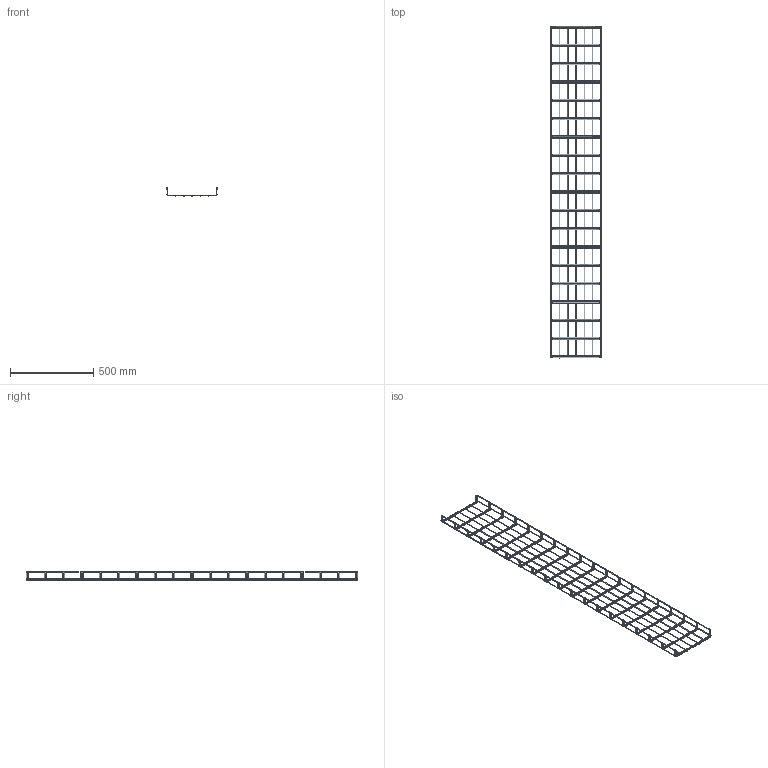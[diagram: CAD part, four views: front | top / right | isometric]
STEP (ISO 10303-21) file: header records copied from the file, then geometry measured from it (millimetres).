
FILE_DESCRIPTION(/* description */ (''),/* implementation_level */ '2;1');
FILE_NAME(/* name */ 'M2_300×050',/* time_stamp */ '2012-11-29T22:11:15+01:00',/* author */ (''),/* organization */ (''),/* preprocessor_version */ 'ST-DEVELOPER v10',/* originating_system */ '',/* authorisation */ '');
FILE_SCHEMA (('AUTOMOTIVE_DESIGN_CC2'));
Length unit declared in the file: millimetre
Products named in the file (1): 1
Bounding box: 304.19 x 1993.52 x 53.94 mm (x, y, z)
Surface area: 389674.8 mm2 (no closed solid volume)
Topology: 0 solids, 327 shells, 636 faces, 1872 edges, 1254 vertices
Faces by surface type: bspline 618, plane 18
Entity records: 53012 total; most frequent: CARTESIAN_POINT 41074, ORIENTED_EDGE 2490, EDGE_CURVE 1872, VERTEX_POINT 1254, B_SPLINE_CURVE_WITH_KNOTS 690, ADVANCED_FACE 636, FACE_OUTER_BOUND 636, EDGE_LOOP 636
